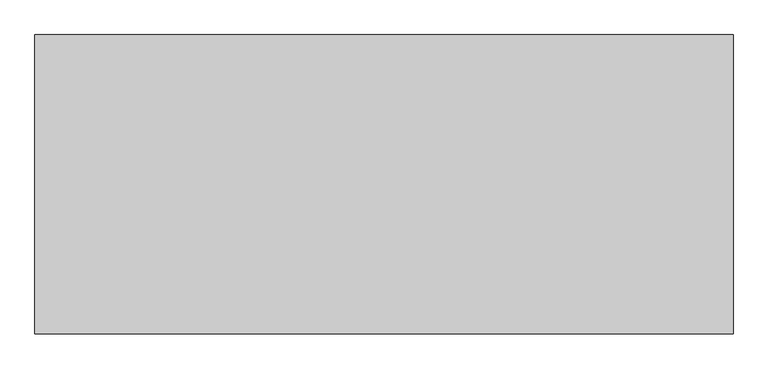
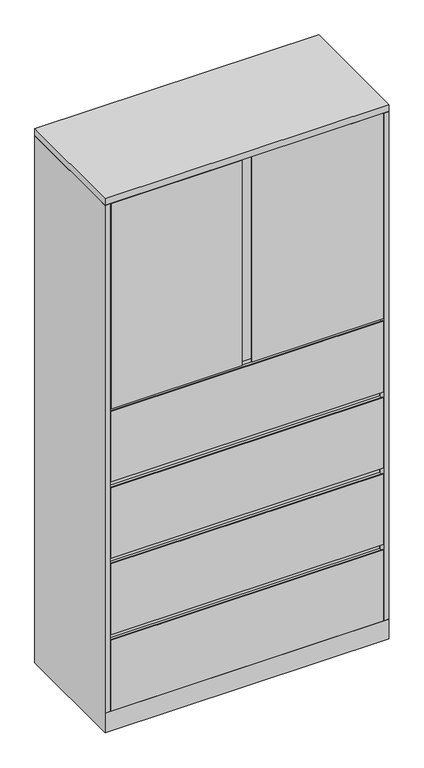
"""IFC4 building model written with IfcOpenShell, lengths in millimetres: furniture geometry, Steelcase - Universal Storage - Cabinet - Combination - Flush Steel : 83 1/2H - 4 Drawers - 18D x 42W."""

from ifc_helpers import new_model, si_unit, frame, origin, place, context, project, spatial, polyline, outline, extrude, faceted_brep, source, transform, mapped, element, save


def furniture_6c8e3e8a(model_context):
    return source(origin(), model_context, "Body", "SolidModel", [
        extrude(outline(polyline([(21.8068168, -431.673866), (1045.972, -431.673866), (1045.972, -457.2), (552.45, -457.2), (552.45, -452.883482), (565.6189152, -452.883482), (565.6189152, -438.0238781), (514.35, -438.0238781), (514.35, -457.2), (21.8068168, -457.2), (21.8068168, -431.673866)])), frame((0.0, 0.0, 1278.636), z_axis=(0.0, 0.0, 1.0), x_axis=(1.0, 0.0, 0.0)), (0.0, 0.0, 1.0), 815.34),
        extrude(outline(polyline([(1066.8, 0.0), (1066.8, -457.2), (0.0, -457.2), (0.0, 0.0), (1066.8, 0.0)])), frame((0.0, 0.0, 2095.4999516), z_axis=(0.0, 0.0, 1.0), x_axis=(1.0, 0.0, 0.0)), (0.0, 0.0, 1.0), 25.4000484),
        extrude(outline(polyline([(1041.4000242, -25.4000008), (1041.4000242, -430.1498674), (25.4000008, -430.1498674), (25.4000008, -25.4000008), (1041.4000242, -25.4000008)])), frame((0.0, 0.0, 1875.1550484), z_axis=(0.0, 0.0, 1.0), x_axis=(1.0, 0.0, 0.0)), (0.0, 0.0, 1.0), 22.2249516),
        extrude(outline(polyline([(1041.4000242, -25.4000008), (1041.4000242, -430.1498674), (25.4000008, -430.1498674), (25.4000008, -25.4000008), (1041.4000242, -25.4000008)])), frame((0.0, 0.0, 1571.8790484), z_axis=(0.0, 0.0, 1.0), x_axis=(1.0, 0.0, 0.0)), (0.0, 0.0, 1.0), 22.2249516),
        extrude(outline(polyline([(-457.2, 358.7750484), (-454.0242491, 358.7750484), (-454.0242491, 349.2500484), (-431.673866, 349.2500484), (-431.673866, 381.0), (-430.1498674, 381.0), (-430.1498674, 349.2500484), (-430.1498674, 77.724), (-457.2, 77.724), (-457.2, 358.7750484)])), frame((20.8280006, 0.0, 0.0), z_axis=(1.0, 0.0, 0.0), x_axis=(0.0, 1.0, 0.0)), (0.0, 0.0, 1.0), 1025.1439994),
        extrude(outline(polyline([(1041.4000242, -25.4000008), (1041.4000242, -430.1498674), (25.4000008, -430.1498674), (25.4000008, -25.4000008), (1041.4000242, -25.4000008)])), frame((0.0, 0.0, 358.7750484), z_axis=(0.0, 0.0, 1.0), x_axis=(1.0, 0.0, 0.0)), (0.0, 0.0, 1.0), 22.2249516),
        extrude(outline(polyline([(-457.2, 1268.6030484), (-454.0242491, 1268.6030484), (-454.0242491, 1259.0780484), (-431.673866, 1259.0780484), (-431.673866, 1290.828), (-430.1498674, 1290.828), (-430.1498674, 1259.0780484), (-430.1498674, 987.552), (-457.2, 987.552), (-457.2, 1268.6030484)])), frame((20.8280006, 0.0, 0.0), z_axis=(1.0, 0.0, 0.0), x_axis=(0.0, 1.0, 0.0)), (0.0, 0.0, 1.0), 1025.1439994),
        extrude(outline(polyline([(1041.4000242, -25.4000008), (1041.4000242, -430.1498674), (25.4000008, -430.1498674), (25.4000008, -25.4000008), (1041.4000242, -25.4000008)])), frame((0.0, 0.0, 1268.6030484), z_axis=(0.0, 0.0, 1.0), x_axis=(1.0, 0.0, 0.0)), (0.0, 0.0, 1.0), 22.2249516),
        extrude(outline(polyline([(-457.2, 965.3270484), (-454.0242491, 965.3270484), (-454.0242491, 955.8020484), (-431.673866, 955.8020484), (-431.673866, 987.552), (-430.1498674, 987.552), (-430.1498674, 955.8020484), (-430.1498674, 684.276), (-457.2, 684.276), (-457.2, 965.3270484)])), frame((20.8280006, 0.0, 0.0), z_axis=(1.0, 0.0, 0.0), x_axis=(0.0, 1.0, 0.0)), (0.0, 0.0, 1.0), 1025.1439994),
        extrude(outline(polyline([(1041.4000242, -25.4000008), (1041.4000242, -430.1498674), (25.4000008, -430.1498674), (25.4000008, -25.4000008), (1041.4000242, -25.4000008)])), frame((0.0, 0.0, 965.3270484), z_axis=(0.0, 0.0, 1.0), x_axis=(1.0, 0.0, 0.0)), (0.0, 0.0, 1.0), 22.2249516),
        extrude(outline(polyline([(-457.2, 662.0510484), (-454.0242491, 662.0510484), (-454.0242491, 652.5260484), (-431.673866, 652.5260484), (-431.673866, 684.276), (-430.1498674, 684.276), (-430.1498674, 652.5260484), (-430.1498674, 381.0), (-457.2, 381.0), (-457.2, 662.0510484)])), frame((20.8280006, 0.0, 0.0), z_axis=(1.0, 0.0, 0.0), x_axis=(0.0, 1.0, 0.0)), (0.0, 0.0, 1.0), 1025.1439994),
        extrude(outline(polyline([(1041.4000242, -25.4000008), (1041.4000242, -430.1498674), (25.4000008, -430.1498674), (25.4000008, -25.4000008), (1041.4000242, -25.4000008)])), frame((0.0, 0.0, 662.0510484), z_axis=(0.0, 0.0, 1.0), x_axis=(1.0, 0.0, 0.0)), (0.0, 0.0, 1.0), 22.2249516),
        faceted_brep([(1066.8, 0.0, 0.0), (1066.8, -457.2, 0.0), (0.0, -457.2, 0.0), (0.0, 0.0, 0.0), (0.0, 0.0, 2093.976), (1066.8, 0.0, 2093.976), (0.0, -457.2, 76.2), (0.0, -457.2, 77.724), (0.0, -457.2, 2093.976), (1066.8, -457.2, 76.2), (1066.8, -457.2, 2093.976), (1066.8, -457.2, 77.724), (1041.4000242, -25.4000008, 2093.976), (1041.4000242, -430.1498674, 2093.976), (1045.972, -430.1498674, 2093.976), (1045.972, -431.6738781, 2093.976), (1047.496, -431.6738781, 2093.976), (1047.496, -457.2, 2093.976), (19.304, -457.2, 2093.976), (19.304, -431.673866, 2093.976), (20.8280006, -431.673866, 2093.976), (20.8280006, -430.1498674, 2093.976), (25.4000008, -430.1498674, 2093.976), (25.4000008, -25.4000008, 2093.976), (19.304, -457.2, 77.724), (19.304, -437.896, 77.724), (1047.496, -457.2, 77.724), (1047.496, -437.7698418, 77.724), (1041.4000242, -25.4000008, 77.724), (1041.4000242, -430.1498674, 77.724), (1045.972, -430.1498674, 77.724), (1045.972, -431.6738781, 77.724), (1047.496, -431.6738781, 77.724), (19.304, -431.673866, 77.724), (20.8280006, -431.673866, 77.724), (20.8280006, -430.1498674, 77.724), (25.4000008, -430.1498674, 77.724), (25.4000008, -25.4000008, 77.724), (25.526134, -431.673866, 77.724), (1041.4000242, -431.673866, 77.724)], [[[0, 1, 2, 3]], [[0, 3, 4, 5]], [[4, 3, 2, 6, 7, 8]], [[2, 1, 9, 6]], [[1, 0, 5, 10, 11, 9]], [[12, 13, 14, 15, 16, 17, 10, 5, 4, 8, 18, 19, 20, 21, 22, 23]], [[24, 7, 25]], [[11, 26, 27]], [[13, 12, 28, 29]], [[14, 13, 29, 30]], [[15, 14, 30, 31]], [[16, 15, 31, 32]], [[17, 16, 32, 27, 26]], [[10, 17, 26, 11]], [[18, 8, 7, 24]], [[19, 18, 24, 25, 33]], [[20, 19, 33, 34]], [[21, 20, 34, 35]], [[22, 21, 35, 36]], [[23, 22, 36, 37]], [[12, 23, 37, 28]], [[38, 39, 27, 32, 31, 30, 29, 28, 37, 36, 35, 34, 33, 25]], [[7, 6, 38, 25]], [[39, 38, 6, 9]], [[39, 9, 11, 27]]]),
    ])


if __name__ == "__main__":
    model = new_model("IFC4")
    model_context = context("Model", 3, world=origin())
    ifc_project = project(units=[si_unit("LENGTHUNIT", "METRE", prefix="MILLI")], contexts=[model_context])
    site = spatial("IfcSite", under=ifc_project)
    building = spatial("IfcBuilding", under=site)
    placement = place(None, origin())
    furniture_shape = furniture_6c8e3e8a(model_context)
    element("IfcFurniture", 1, ObjectType="Steelcase - Universal Storage - Cabinet - Combination - Flush Steel : 83 1/2H - 4 Drawers - 18D x 42W", at=placement, inside=building, context=model_context, shape_type="MappedRepresentation", body=[
        mapped(furniture_shape, transform((0.0, 0.0, 0.0), x_axis=(1.0, 0.0, 0.0), y_axis=(0.0, 1.0, 0.0), z_axis=(0.0, 0.0, 1.0))),
    ])
    save(model, "model.ifc")
